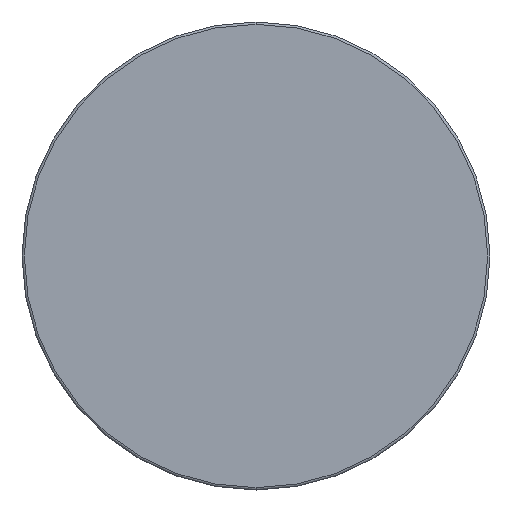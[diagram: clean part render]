
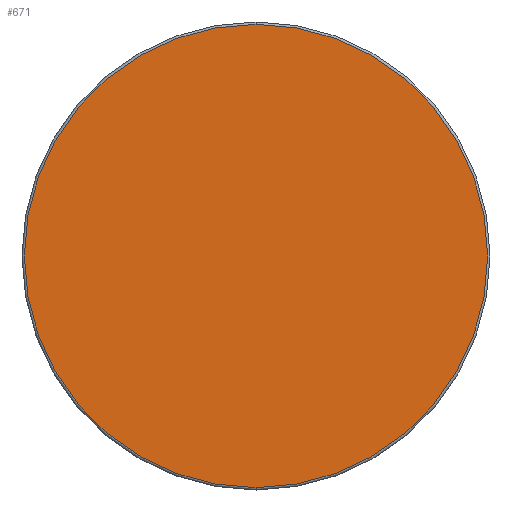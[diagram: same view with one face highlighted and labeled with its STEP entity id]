
A CAD part, front view. The second image highlights one B-rep face of the part: STEP entity #671.
In plain terms, the highlighted planar face has unit normal (0, -1, 0).
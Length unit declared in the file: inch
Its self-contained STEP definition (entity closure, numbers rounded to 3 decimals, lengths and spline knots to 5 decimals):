
#57 = EDGE_LOOP ( 'NONE', ( #243, #244 ) ) ;
#81 = EDGE_CURVE ( 'NONE', #451, #445, #2698, .T. ) ;
#243 = ORIENTED_EDGE ( 'NONE', *, *, #516, .T. ) ;
#244 = ORIENTED_EDGE ( 'NONE', *, *, #81, .T. ) ;
#445 = VERTEX_POINT ( 'NONE', #1078 ) ;
#451 = VERTEX_POINT ( 'NONE', #1084 ) ;
#516 = EDGE_CURVE ( 'NONE', #445, #451, #1266, .T. ) ;
#671 = ADVANCED_FACE ( 'NONE', ( #2323 ), #2324, .F. ) ;
#948 = CARTESIAN_POINT ( 'NONE',  ( 1.0281, 0., 0. ) ) ;
#949 = DIRECTION ( 'NONE',  ( 0., -1., 0. ) ) ;
#950 = DIRECTION ( 'NONE',  ( 0., 0., 1. ) ) ;
#1078 = CARTESIAN_POINT ( 'NONE',  ( 1.0281, 0., 0.9742 ) ) ;
#1084 = CARTESIAN_POINT ( 'NONE',  ( 1.0281, 0., -0.9742 ) ) ;
#1266 = CIRCLE ( 'NONE', #1272, 0.9742 ) ;
#1272 = AXIS2_PLACEMENT_3D ( 'NONE', #1563, #1564, #1565 ) ;
#1517 = AXIS2_PLACEMENT_3D ( 'NONE', #2320, #2326, #2327 ) ;
#1563 = CARTESIAN_POINT ( 'NONE',  ( 1.0281, 0., 0. ) ) ;
#1564 = DIRECTION ( 'NONE',  ( 0., -1., 0. ) ) ;
#1565 = DIRECTION ( 'NONE',  ( 0., 0., 1. ) ) ;
#2320 = CARTESIAN_POINT ( 'NONE',  ( 2.0123, 0., 0. ) ) ;
#2323 = FACE_OUTER_BOUND ( 'NONE', #57, .T. ) ;
#2324 = PLANE ( 'NONE',  #1517 ) ;
#2326 = DIRECTION ( 'NONE',  ( 0., 1., 0. ) ) ;
#2327 = DIRECTION ( 'NONE',  ( 0., 0., 1. ) ) ;
#2682 = AXIS2_PLACEMENT_3D ( 'NONE', #948, #949, #950 ) ;
#2698 = CIRCLE ( 'NONE', #2682, 0.9742 ) ;
